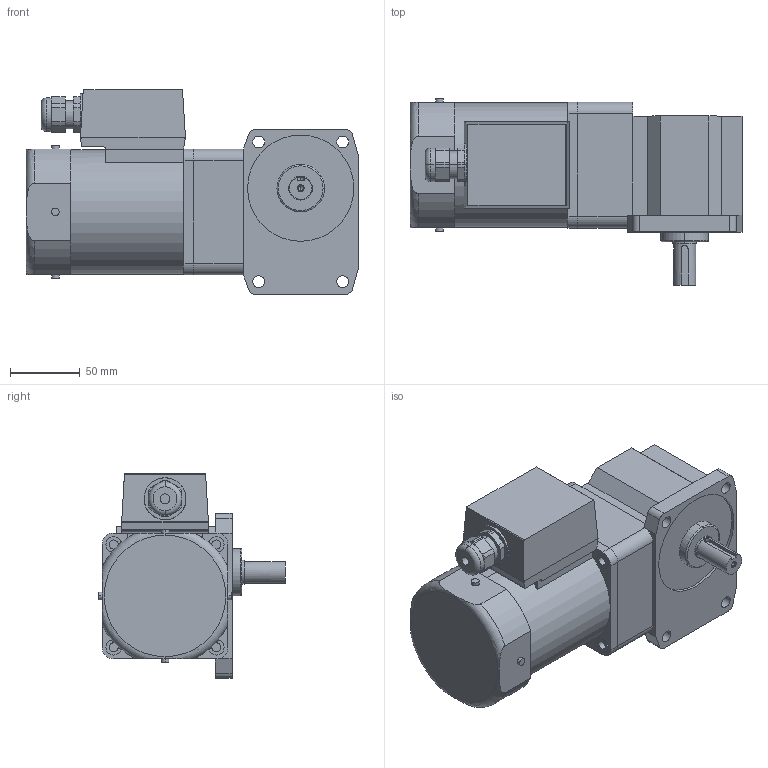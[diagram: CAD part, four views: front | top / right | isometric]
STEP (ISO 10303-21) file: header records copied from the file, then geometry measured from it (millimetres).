
FILE_DESCRIPTION(('starvars output'),'2;1');
FILE_NAME('5IK60GE-AW2TU _ 5GE30RAA.stp','10:45:33 2015/05/11',( 'Thomas Industrial Network Germany GmbH'),( 'Thomas Industrial Network Germany GmbH'),'unknown preprocess','ACIS' ,'unknown authorization');
FILE_SCHEMA(('AUTOMOTIVE_DESIGN_CC2 {UNKNOWN IMPLEMENTATION LEVEL}'));
Length unit declared in the file: millimetre
Products named in the file (1): PRODUCT_ID_1670
Bounding box: 237.5 x 133.4 x 146.5 mm (x, y, z)
Volume: 1888436.9 mm3; surface area: 123131.8 mm2
Topology: 2 solids, 2 shells, 232 faces, 578 edges, 376 vertices
Faces by surface type: plane 113, cylinder 101, torus 14, cone 4
Entity records: 8423 total; most frequent: CARTESIAN_POINT 1424, ORIENTED_EDGE 1152, DIRECTION 922, EDGE_CURVE 576, VERTEX_POINT 376, VECTOR 322, LINE 322, AXIS2_PLACEMENT_3D 300
